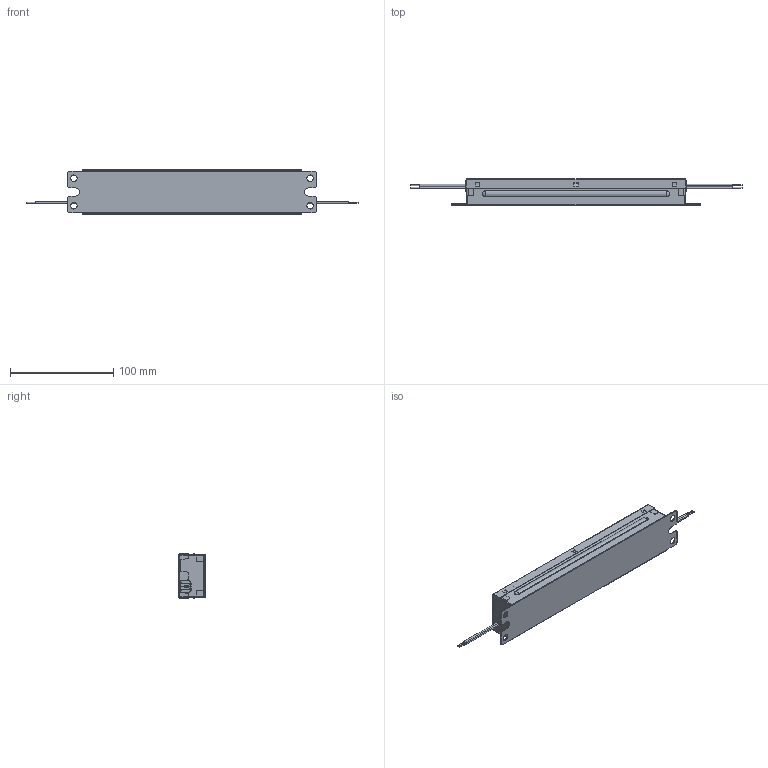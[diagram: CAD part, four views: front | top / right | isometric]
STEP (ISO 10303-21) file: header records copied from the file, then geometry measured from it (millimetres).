
FILE_DESCRIPTION (( 'STEP AP203' ), '1' );
FILE_NAME ('3D-USVI-100024FG.STEP', '2019-03-11T12:26:50', ( '' ), ( '' ), 'SwSTEP 2.0', 'SolidWorks 2016', '' );
FILE_SCHEMA (( 'CONFIG_CONTROL_DESIGN' ));
Length unit declared in the file: millimetre
Products named in the file (9): SR (0 Wires); Red wire; White wire; 399211330000; 3D-USVI-100024FG; Black wire; Blue wire; 399211320000; SR (2 Wires)
Assembly tree (9 placements, depth 2):
  3D-USVI-100024FG
    399211330000
    399211320000
    SR (2 Wires)  x2
    SR (0 Wires)
    Black wire
    White wire
    Blue wire
    Red wire
Bounding box: 321.2 x 25.4 x 42.9 mm (x, y, z)
Volume: 19393.6 mm3; surface area: 75619 mm2
Topology: 9 solids, 9 shells, 675 faces, 1819 edges, 1166 vertices
Faces by surface type: plane 484, cylinder 174, sphere 8, torus 8, bspline 1
Entity records: 20714 total; most frequent: CARTESIAN_POINT 3615, ORIENTED_EDGE 3422, DIRECTION 3269, EDGE_CURVE 1711, LINE 1349, VECTOR 1349, VERTEX_POINT 1094, AXIS2_PLACEMENT_3D 960
